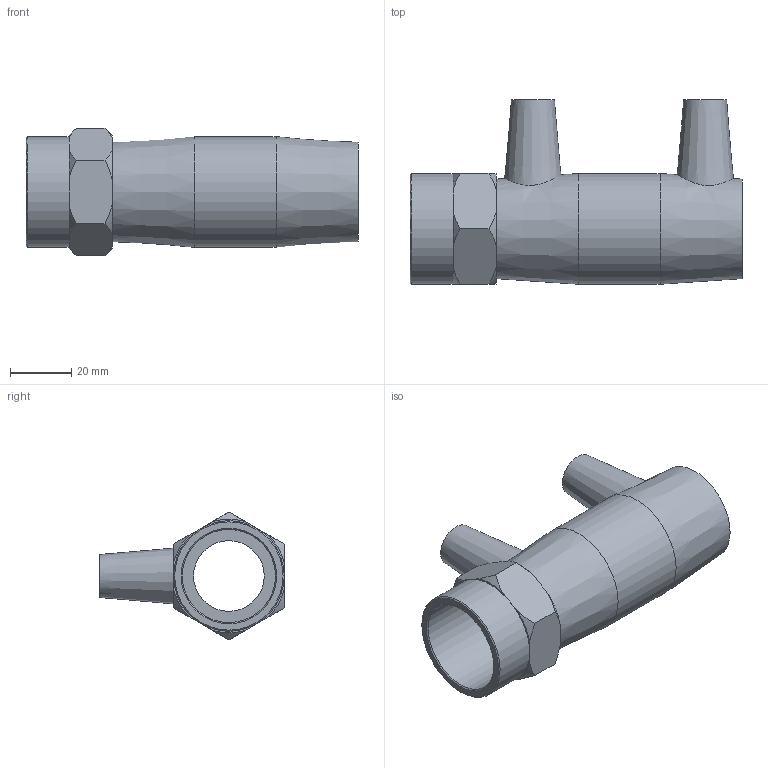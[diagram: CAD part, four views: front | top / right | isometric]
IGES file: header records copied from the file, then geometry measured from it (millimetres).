
Global section: file name: 493104025010.ipt; native system: Autodesk Inventor 2015; preprocessor: unknown; author: KIM; date: 20200202.122436; units: millimetre
Bounding box: 108 x 60 x 41.57 mm (x, y, z)
Volume: 59508.2 mm3; surface area: 25640.7 mm2
Topology: 1 solids, 1 shells, 54 faces, 130 edges, 86 vertices
Faces by surface type: plane 24, cone 17, revolution 9, cylinder 4
Full cylindrical faces by diameter (mm): 4 x2, 36 x2
